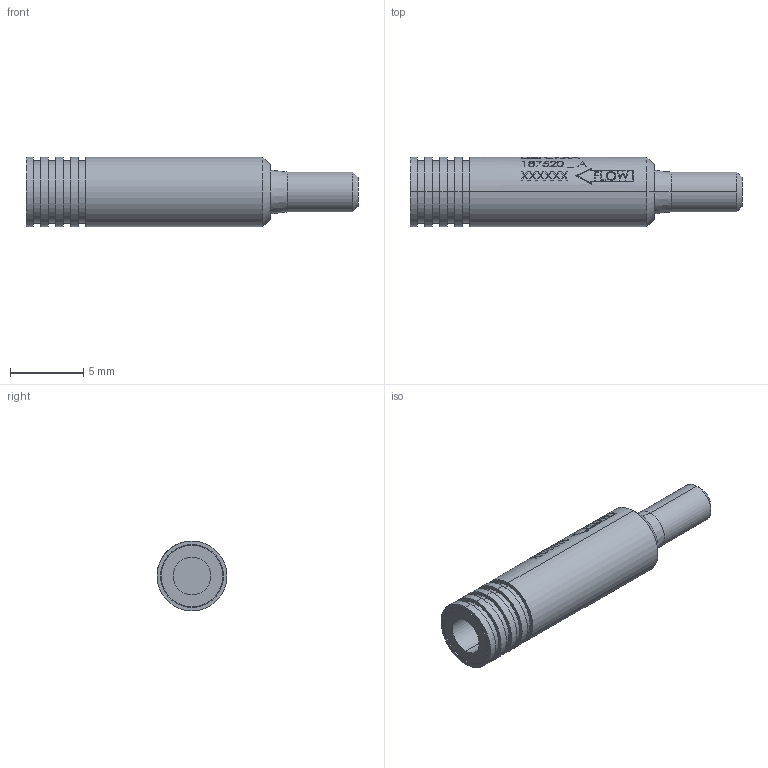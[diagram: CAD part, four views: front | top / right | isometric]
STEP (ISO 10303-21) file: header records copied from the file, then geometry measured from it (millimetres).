
FILE_DESCRIPTION (( 'STEP AP214' ), '1' );
FILE_NAME ('3DCKRA187520-A.STEP', '2021-03-30T14:21:57', ( '' ), ( '' ), 'SwSTEP 2.0', 'SolidWorks 2019', '' );
FILE_SCHEMA (( 'AUTOMOTIVE_DESIGN' ));
Length unit declared in the file: inch
Products named in the file (1): 3DCKRA187520-A
Bounding box: 22.61 x 4.76 x 4.76 mm (x, y, z)
Volume: 298.7 mm3; surface area: 396.6 mm2
Topology: 1 solids, 1 shells, 360 faces, 931 edges, 618 vertices
Faces by surface type: bspline 151, plane 143, cylinder 58, cone 8
Entity records: 18313 total; most frequent: CARTESIAN_POINT 6760, ORIENTED_EDGE 1862, DIRECTION 985, EDGE_CURVE 931, VERTEX_POINT 618, B_SPLINE_CURVE_WITH_KNOTS 506, EDGE_LOOP 405, FACE_OUTER_BOUND 360
